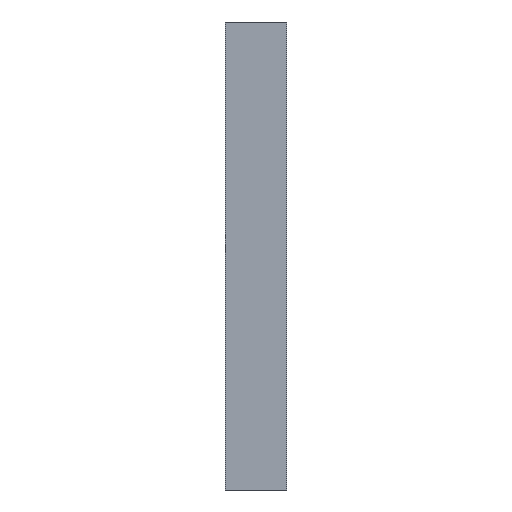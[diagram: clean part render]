
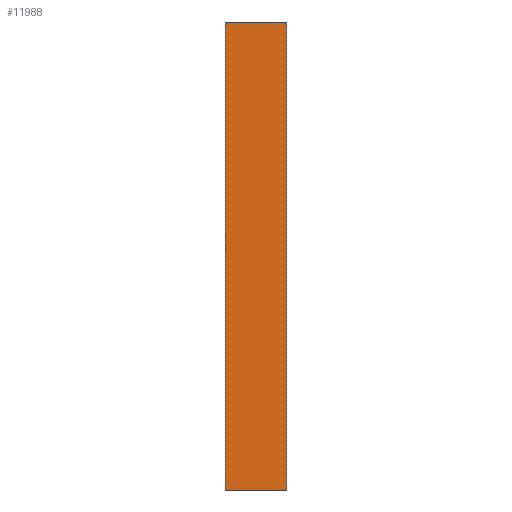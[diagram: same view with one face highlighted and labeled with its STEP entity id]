
A CAD part, left-side view. The second image highlights one B-rep face of the part: STEP entity #11988.
In plain terms, the highlighted planar face has unit normal (-1, 0, 0).
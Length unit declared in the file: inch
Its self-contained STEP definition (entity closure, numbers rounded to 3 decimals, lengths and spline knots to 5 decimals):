
#148 = VERTEX_POINT ( 'NONE', #20799 ) ;
#318 = DIRECTION ( 'NONE',  ( 0., -1., 0. ) ) ;
#801 = LINE ( 'NONE', #11695, #17554 ) ;
#1063 = CARTESIAN_POINT ( 'NONE',  ( -15.12631, 0., -9.5821 ) ) ;
#1845 = DIRECTION ( 'NONE',  ( 0., 0., 1. ) ) ;
#3277 = CARTESIAN_POINT ( 'NONE',  ( -15.12631, 0., 9.5821 ) ) ;
#3478 = EDGE_LOOP ( 'NONE', ( #19266, #15172, #3519, #10494 ) ) ;
#3519 = ORIENTED_EDGE ( 'NONE', *, *, #19456, .F. ) ;
#3921 = CARTESIAN_POINT ( 'NONE',  ( -15.12631, 2.5, 9.5821 ) ) ;
#6765 = VECTOR ( 'NONE', #1845, 39.37008 ) ;
#7310 = VERTEX_POINT ( 'NONE', #1063 ) ;
#7432 = CARTESIAN_POINT ( 'NONE',  ( -15.12631, 2.5, -9.5821 ) ) ;
#8255 = CARTESIAN_POINT ( 'NONE',  ( -15.12631, 2.5, 9.5821 ) ) ;
#8430 = CARTESIAN_POINT ( 'NONE',  ( -15.12631, 2.5, -9.5821 ) ) ;
#9537 = FACE_OUTER_BOUND ( 'NONE', #3478, .T. ) ;
#9865 = DIRECTION ( 'NONE',  ( 0., 0., 1. ) ) ;
#10452 = DIRECTION ( 'NONE',  ( 0., 0., -1. ) ) ;
#10494 = ORIENTED_EDGE ( 'NONE', *, *, #16041, .T. ) ;
#11455 = LINE ( 'NONE', #8255, #15256 ) ;
#11513 = LINE ( 'NONE', #8430, #15312 ) ;
#11695 = CARTESIAN_POINT ( 'NONE',  ( -15.12631, 2.5, 9.5821 ) ) ;
#11872 = EDGE_CURVE ( 'NONE', #7310, #13964, #15379, .T. ) ;
#11988 = ADVANCED_FACE ( 'NONE', ( #9537 ), #18558, .F. ) ;
#13213 = CARTESIAN_POINT ( 'NONE',  ( -15.12631, 0., 9.5821 ) ) ;
#13964 = VERTEX_POINT ( 'NONE', #3277 ) ;
#14455 = VERTEX_POINT ( 'NONE', #7432 ) ;
#14591 = AXIS2_PLACEMENT_3D ( 'NONE', #3921, #20176, #10452 ) ;
#15172 = ORIENTED_EDGE ( 'NONE', *, *, #17746, .F. ) ;
#15256 = VECTOR ( 'NONE', #9865, 39.37008 ) ;
#15312 = VECTOR ( 'NONE', #19778, 39.37008 ) ;
#15379 = LINE ( 'NONE', #13213, #6765 ) ;
#16041 = EDGE_CURVE ( 'NONE', #14455, #7310, #11513, .T. ) ;
#17554 = VECTOR ( 'NONE', #318, 39.37008 ) ;
#17746 = EDGE_CURVE ( 'NONE', #148, #13964, #801, .T. ) ;
#18558 = PLANE ( 'NONE',  #14591 ) ;
#19266 = ORIENTED_EDGE ( 'NONE', *, *, #11872, .T. ) ;
#19456 = EDGE_CURVE ( 'NONE', #14455, #148, #11455, .T. ) ;
#19778 = DIRECTION ( 'NONE',  ( 0., -1., 0. ) ) ;
#20176 = DIRECTION ( 'NONE',  ( 1., 0., 0. ) ) ;
#20799 = CARTESIAN_POINT ( 'NONE',  ( -15.12631, 2.5, 9.5821 ) ) ;
